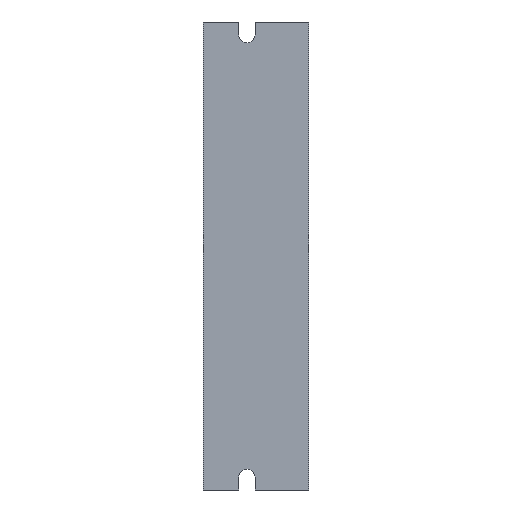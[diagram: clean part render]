
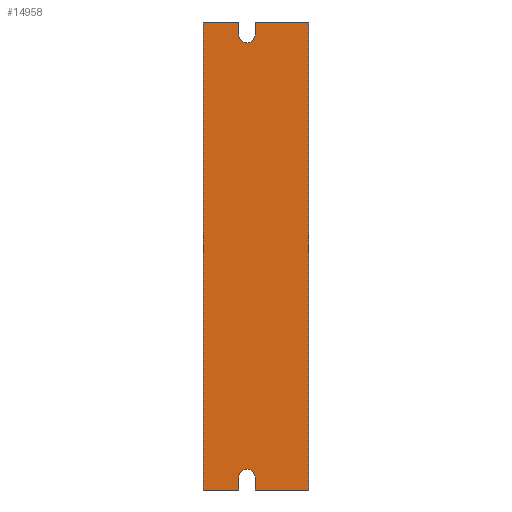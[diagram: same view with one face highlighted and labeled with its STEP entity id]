
A CAD part, left-side view. The second image highlights one B-rep face of the part: STEP entity #14958.
In plain terms, the highlighted planar face has unit normal (-1, 0, 0).
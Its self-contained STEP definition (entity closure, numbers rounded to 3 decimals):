
#219 = AXIS2_PLACEMENT_3D ( 'NONE', #70118, #22925, #78037 ) ;
#3343 = EDGE_CURVE ( 'NONE', #61842, #61397, #13050, .T. ) ;
#3737 = VECTOR ( 'NONE', #43376, 1000. ) ;
#6268 = DIRECTION ( 'NONE',  ( 0., 0., 1. ) ) ;
#6961 = CARTESIAN_POINT ( 'NONE',  ( 0., 19.25, -61. ) ) ;
#7698 = EDGE_LOOP ( 'NONE', ( #101704, #68635, #49483, #101007, #8965, #80720, #34897, #66066, #93530, #19212, #11726, #78781 ) ) ;
#8965 = ORIENTED_EDGE ( 'NONE', *, *, #44895, .F. ) ;
#10882 = VERTEX_POINT ( 'NONE', #76529 ) ;
#11726 = ORIENTED_EDGE ( 'NONE', *, *, #3343, .F. ) ;
#11934 = CARTESIAN_POINT ( 'NONE',  ( 0., 29., 64.5 ) ) ;
#13050 = LINE ( 'NONE', #52702, #94362 ) ;
#13509 = DIRECTION ( 'NONE',  ( 0., 0., -1. ) ) ;
#14562 = LINE ( 'NONE', #18353, #53941 ) ;
#14913 = CARTESIAN_POINT ( 'NONE',  ( 0., 19.25, -64.5 ) ) ;
#14958 = ADVANCED_FACE ( 'NONE', ( #78814 ), #73269, .F. ) ;
#16702 = DIRECTION ( 'NONE',  ( 0., 0., 1. ) ) ;
#18353 = CARTESIAN_POINT ( 'NONE',  ( 0., 0., -64.5 ) ) ;
#18969 = LINE ( 'NONE', #85524, #60807 ) ;
#19212 = ORIENTED_EDGE ( 'NONE', *, *, #26372, .F. ) ;
#20100 = CARTESIAN_POINT ( 'NONE',  ( 0., 17., -61. ) ) ;
#21897 = EDGE_CURVE ( 'NONE', #65376, #41624, #39836, .T. ) ;
#21945 = CARTESIAN_POINT ( 'NONE',  ( 0., 19.25, 64.5 ) ) ;
#22925 = DIRECTION ( 'NONE',  ( -1., 0., 0. ) ) ;
#23569 = VERTEX_POINT ( 'NONE', #70201 ) ;
#26095 = CARTESIAN_POINT ( 'NONE',  ( 0., 0., 64.5 ) ) ;
#26372 = EDGE_CURVE ( 'NONE', #61397, #23569, #14562, .T. ) ;
#28032 = DIRECTION ( 'NONE',  ( 0., 0., -1. ) ) ;
#29249 = EDGE_CURVE ( 'NONE', #52788, #10882, #46994, .T. ) ;
#30331 = DIRECTION ( 'NONE',  ( 0., 1., 0. ) ) ;
#32243 = EDGE_CURVE ( 'NONE', #23569, #65376, #51159, .T. ) ;
#33673 = EDGE_CURVE ( 'NONE', #41624, #52788, #86780, .T. ) ;
#33983 = DIRECTION ( 'NONE',  ( 1., 0., 0. ) ) ;
#34897 = ORIENTED_EDGE ( 'NONE', *, *, #33673, .F. ) ;
#36589 = EDGE_CURVE ( 'NONE', #99431, #64929, #78563, .T. ) ;
#36646 = VECTOR ( 'NONE', #42024, 1000. ) ;
#38343 = DIRECTION ( 'NONE',  ( 0., 1., 0. ) ) ;
#38484 = CARTESIAN_POINT ( 'NONE',  ( 0., 0., 64.5 ) ) ;
#39444 = CARTESIAN_POINT ( 'NONE',  ( 0., 14.75, 64.5 ) ) ;
#39836 = LINE ( 'NONE', #43605, #58297 ) ;
#41624 = VERTEX_POINT ( 'NONE', #62830 ) ;
#42024 = DIRECTION ( 'NONE',  ( 0., 0., 1. ) ) ;
#43376 = DIRECTION ( 'NONE',  ( 0., 0., 1. ) ) ;
#43605 = CARTESIAN_POINT ( 'NONE',  ( 0., 0., 64.5 ) ) ;
#44895 = EDGE_CURVE ( 'NONE', #10882, #78006, #48100, .T. ) ;
#46994 = CIRCLE ( 'NONE', #219, 2.25 ) ;
#48100 = LINE ( 'NONE', #63848, #90035 ) ;
#48185 = VECTOR ( 'NONE', #30331, 1000. ) ;
#49483 = ORIENTED_EDGE ( 'NONE', *, *, #36589, .T. ) ;
#49566 = EDGE_CURVE ( 'NONE', #70030, #61842, #55409, .T. ) ;
#49980 = DIRECTION ( 'NONE',  ( 0., 1., 0. ) ) ;
#51159 = LINE ( 'NONE', #100589, #90621 ) ;
#52702 = CARTESIAN_POINT ( 'NONE',  ( 0., 19.25, 64.5 ) ) ;
#52788 = VERTEX_POINT ( 'NONE', #70052 ) ;
#53607 = AXIS2_PLACEMENT_3D ( 'NONE', #20100, #75194, #28032 ) ;
#53941 = VECTOR ( 'NONE', #49980, 1000. ) ;
#55409 = CIRCLE ( 'NONE', #53607, 2.25 ) ;
#57525 = CARTESIAN_POINT ( 'NONE',  ( 0., 0., 64.5 ) ) ;
#58297 = VECTOR ( 'NONE', #82898, 1000. ) ;
#60807 = VECTOR ( 'NONE', #38343, 1000. ) ;
#60880 = CARTESIAN_POINT ( 'NONE',  ( 0., 0., -64.5 ) ) ;
#61397 = VERTEX_POINT ( 'NONE', #14913 ) ;
#61511 = DIRECTION ( 'NONE',  ( 0., 0., -1. ) ) ;
#61842 = VERTEX_POINT ( 'NONE', #6961 ) ;
#62830 = CARTESIAN_POINT ( 'NONE',  ( 0., 19.25, 64.5 ) ) ;
#63848 = CARTESIAN_POINT ( 'NONE',  ( 0., 14.75, 64.5 ) ) ;
#64929 = VERTEX_POINT ( 'NONE', #38484 ) ;
#64999 = VERTEX_POINT ( 'NONE', #100497 ) ;
#65376 = VERTEX_POINT ( 'NONE', #11934 ) ;
#66066 = ORIENTED_EDGE ( 'NONE', *, *, #21897, .F. ) ;
#68635 = ORIENTED_EDGE ( 'NONE', *, *, #98942, .F. ) ;
#69135 = LINE ( 'NONE', #100962, #48185 ) ;
#70030 = VERTEX_POINT ( 'NONE', #81208 ) ;
#70052 = CARTESIAN_POINT ( 'NONE',  ( 0., 19.25, 61. ) ) ;
#70118 = CARTESIAN_POINT ( 'NONE',  ( 0., 17., 61. ) ) ;
#70201 = CARTESIAN_POINT ( 'NONE',  ( 0., 29., -64.5 ) ) ;
#73269 = PLANE ( 'NONE',  #84927 ) ;
#75194 = DIRECTION ( 'NONE',  ( -1., 0., 0. ) ) ;
#76529 = CARTESIAN_POINT ( 'NONE',  ( 0., 14.75, 61. ) ) ;
#78006 = VERTEX_POINT ( 'NONE', #39444 ) ;
#78037 = DIRECTION ( 'NONE',  ( 0., 0., -1. ) ) ;
#78563 = LINE ( 'NONE', #57525, #36646 ) ;
#78781 = ORIENTED_EDGE ( 'NONE', *, *, #49566, .F. ) ;
#78814 = FACE_OUTER_BOUND ( 'NONE', #7698, .T. ) ;
#80720 = ORIENTED_EDGE ( 'NONE', *, *, #29249, .F. ) ;
#81208 = CARTESIAN_POINT ( 'NONE',  ( 0., 14.75, -61. ) ) ;
#82898 = DIRECTION ( 'NONE',  ( 0., -1., 0. ) ) ;
#84275 = VECTOR ( 'NONE', #61511, 1000. ) ;
#84922 = LINE ( 'NONE', #90597, #3737 ) ;
#84927 = AXIS2_PLACEMENT_3D ( 'NONE', #26095, #33983, #89102 ) ;
#85524 = CARTESIAN_POINT ( 'NONE',  ( 0., 0., 64.5 ) ) ;
#86287 = EDGE_CURVE ( 'NONE', #64999, #70030, #84922, .T. ) ;
#86780 = LINE ( 'NONE', #21945, #84275 ) ;
#89102 = DIRECTION ( 'NONE',  ( 0., 0., -1. ) ) ;
#90035 = VECTOR ( 'NONE', #16702, 1000. ) ;
#90597 = CARTESIAN_POINT ( 'NONE',  ( 0., 14.75, 64.5 ) ) ;
#90621 = VECTOR ( 'NONE', #6268, 1000. ) ;
#93530 = ORIENTED_EDGE ( 'NONE', *, *, #32243, .F. ) ;
#94362 = VECTOR ( 'NONE', #13509, 1000. ) ;
#97726 = EDGE_CURVE ( 'NONE', #64929, #78006, #18969, .T. ) ;
#98942 = EDGE_CURVE ( 'NONE', #99431, #64999, #69135, .T. ) ;
#99431 = VERTEX_POINT ( 'NONE', #60880 ) ;
#100497 = CARTESIAN_POINT ( 'NONE',  ( 0., 14.75, -64.5 ) ) ;
#100589 = CARTESIAN_POINT ( 'NONE',  ( 0., 29., 64.5 ) ) ;
#100962 = CARTESIAN_POINT ( 'NONE',  ( 0., 0., -64.5 ) ) ;
#101007 = ORIENTED_EDGE ( 'NONE', *, *, #97726, .T. ) ;
#101704 = ORIENTED_EDGE ( 'NONE', *, *, #86287, .F. ) ;
